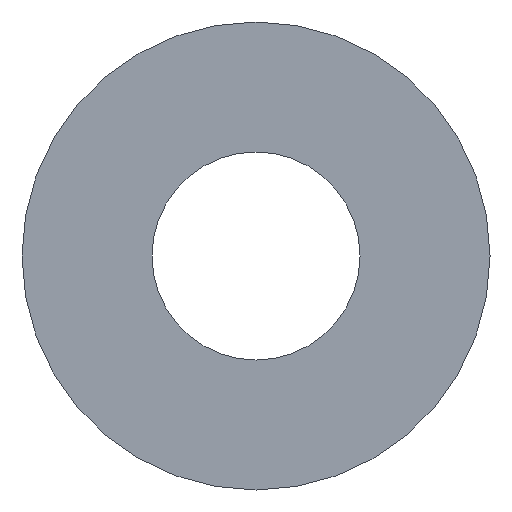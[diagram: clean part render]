
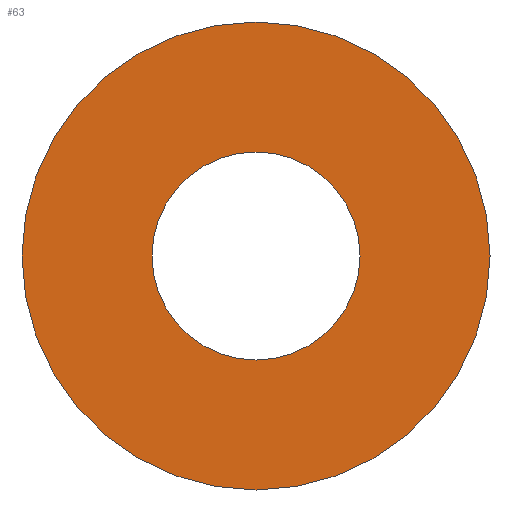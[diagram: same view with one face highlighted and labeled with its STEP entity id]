
A CAD part, front view. The second image highlights one B-rep face of the part: STEP entity #63.
In plain terms, the highlighted planar face has unit normal (0, -1, 0).
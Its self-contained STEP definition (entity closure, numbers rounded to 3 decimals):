
#1 = DIRECTION ( 'NONE',  ( 0., 1., 0. ) ) ;
#21 = DIRECTION ( 'NONE',  ( 0., 1., 0. ) ) ;
#22 = DIRECTION ( 'NONE',  ( 0., 0., 1. ) ) ;
#24 = ORIENTED_EDGE ( 'NONE', *, *, #147, .T. ) ;
#26 = CARTESIAN_POINT ( 'NONE',  ( 0., 0., -4.5 ) ) ;
#29 = CARTESIAN_POINT ( 'NONE',  ( 0., 0., 0. ) ) ;
#32 = CARTESIAN_POINT ( 'NONE',  ( 0., 0., 4.5 ) ) ;
#34 = AXIS2_PLACEMENT_3D ( 'NONE', #118, #21, #68 ) ;
#37 = DIRECTION ( 'NONE',  ( 0., 0., 1. ) ) ;
#38 = AXIS2_PLACEMENT_3D ( 'NONE', #229, #228, #37 ) ;
#41 = AXIS2_PLACEMENT_3D ( 'NONE', #88, #1, #22 ) ;
#47 = DIRECTION ( 'NONE',  ( 0., 1., 0. ) ) ;
#58 = CARTESIAN_POINT ( 'NONE',  ( 0., 0., 0. ) ) ;
#63 = ADVANCED_FACE ( 'NONE', ( #214, #206 ), #249, .F. ) ;
#68 = DIRECTION ( 'NONE',  ( 0., 0., 1. ) ) ;
#70 = CIRCLE ( 'NONE', #38, 2. ) ;
#85 = ORIENTED_EDGE ( 'NONE', *, *, #145, .F. ) ;
#88 = CARTESIAN_POINT ( 'NONE',  ( 0., 0., 0. ) ) ;
#96 = EDGE_CURVE ( 'NONE', #253, #119, #211, .T. ) ;
#109 = DIRECTION ( 'NONE',  ( 0., 1., 0. ) ) ;
#118 = CARTESIAN_POINT ( 'NONE',  ( 0., 0., 0. ) ) ;
#119 = VERTEX_POINT ( 'NONE', #26 ) ;
#120 = ORIENTED_EDGE ( 'NONE', *, *, #96, .F. ) ;
#126 = ORIENTED_EDGE ( 'NONE', *, *, #247, .T. ) ;
#141 = CIRCLE ( 'NONE', #34, 2. ) ;
#144 = CIRCLE ( 'NONE', #41, 4.5 ) ;
#145 = EDGE_CURVE ( 'NONE', #119, #253, #144, .T. ) ;
#147 = EDGE_CURVE ( 'NONE', #251, #243, #141, .T. ) ;
#152 = AXIS2_PLACEMENT_3D ( 'NONE', #58, #109, #170 ) ;
#155 = AXIS2_PLACEMENT_3D ( 'NONE', #29, #47, #222 ) ;
#170 = DIRECTION ( 'NONE',  ( 0., 0., 1. ) ) ;
#196 = CARTESIAN_POINT ( 'NONE',  ( 0., 0., 2. ) ) ;
#200 = CARTESIAN_POINT ( 'NONE',  ( 0., 0., -2. ) ) ;
#206 = FACE_OUTER_BOUND ( 'NONE', #257, .T. ) ;
#211 = CIRCLE ( 'NONE', #152, 4.5 ) ;
#214 = FACE_BOUND ( 'NONE', #261, .T. ) ;
#222 = DIRECTION ( 'NONE',  ( 0., 0., 1. ) ) ;
#228 = DIRECTION ( 'NONE',  ( 0., 1., 0. ) ) ;
#229 = CARTESIAN_POINT ( 'NONE',  ( 0., 0., 0. ) ) ;
#243 = VERTEX_POINT ( 'NONE', #200 ) ;
#247 = EDGE_CURVE ( 'NONE', #243, #251, #70, .T. ) ;
#249 = PLANE ( 'NONE',  #155 ) ;
#251 = VERTEX_POINT ( 'NONE', #196 ) ;
#253 = VERTEX_POINT ( 'NONE', #32 ) ;
#257 = EDGE_LOOP ( 'NONE', ( #85, #120 ) ) ;
#261 = EDGE_LOOP ( 'NONE', ( #24, #126 ) ) ;
